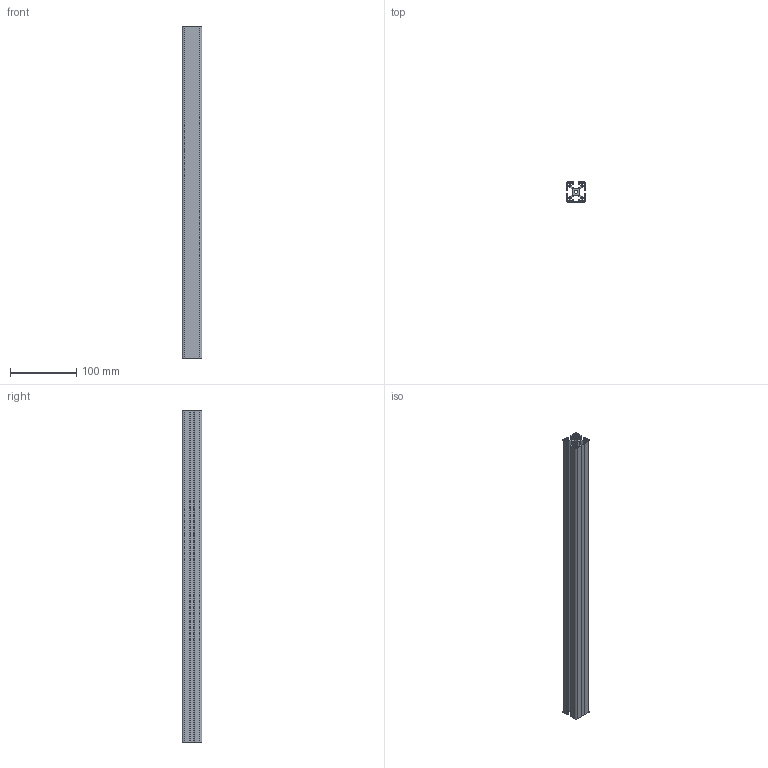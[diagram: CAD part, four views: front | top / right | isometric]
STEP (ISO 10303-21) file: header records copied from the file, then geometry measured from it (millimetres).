
FILE_DESCRIPTION (( 'STEP AP203' ), '1' );
FILE_NAME ('M ATP I6 3030L3N.STEP', '2012-06-04T09:14:41', ( 'alle' ), ( 'Hewlett-Packard Company' ), 'SwSTEP 2.0', 'SolidWorks 2011', '' );
FILE_SCHEMA (( 'CONFIG_CONTROL_DESIGN' ));
Length unit declared in the file: millimetre
Products named in the file (1): M ATP I6 3030L3N
Bounding box: 30 x 30 x 500 mm (x, y, z)
Volume: 170982.7 mm3; surface area: 174194.5 mm2
Topology: 1 solids, 1 shells, 154 faces, 456 edges, 304 vertices
Faces by surface type: plane 78, cylinder 76
Entity records: 5293 total; most frequent: DIRECTION 918, CARTESIAN_POINT 915, ORIENTED_EDGE 912, EDGE_CURVE 456, AXIS2_PLACEMENT_3D 307, LINE 304, VECTOR 304, VERTEX_POINT 304
